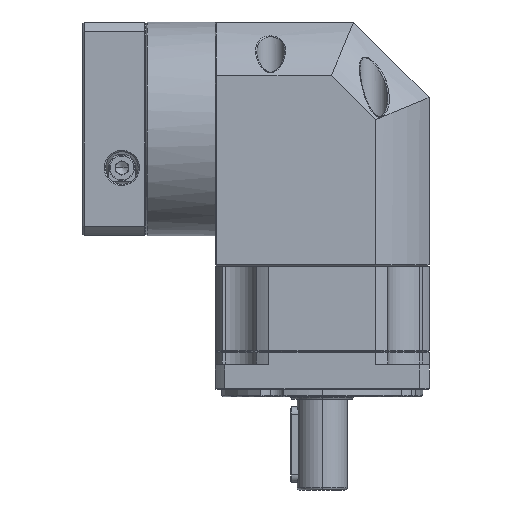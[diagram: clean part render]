
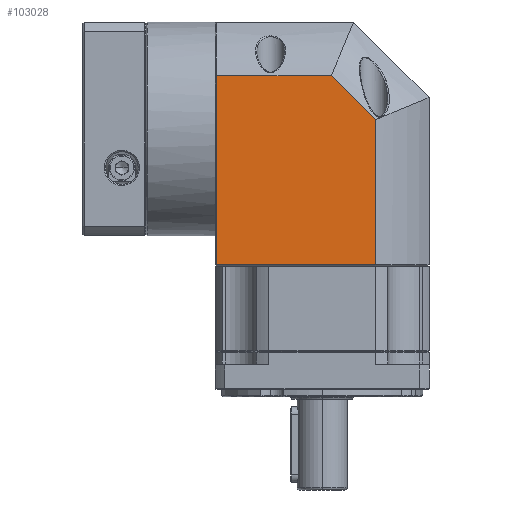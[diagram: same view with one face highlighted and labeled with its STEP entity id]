
A CAD part, left-side view. The second image highlights one B-rep face of the part: STEP entity #103028.
In plain terms, the highlighted planar face has unit normal (-1, 0, 0).
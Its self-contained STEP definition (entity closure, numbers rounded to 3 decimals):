
#5465 = ORIENTED_EDGE ( 'NONE', *, *, #45727, .T. ) ;
#8703 = EDGE_CURVE ( 'NONE', #53513, #136996, #56383, .T. ) ;
#11956 = CARTESIAN_POINT ( 'NONE',  ( -87.975, 72.746, 50.811 ) ) ;
#12419 = DIRECTION ( 'NONE',  ( 1., 0., 0. ) ) ;
#13145 = DIRECTION ( 'NONE',  ( 0., 0., 1. ) ) ;
#19177 = CARTESIAN_POINT ( 'NONE',  ( -87.975, 72.246, 29.524 ) ) ;
#26518 = VECTOR ( 'NONE', #56989, 1000. ) ;
#27243 = CARTESIAN_POINT ( 'NONE',  ( -87.975, 72.746, 29.524 ) ) ;
#31654 = EDGE_LOOP ( 'NONE', ( #5465, #123338, #32299, #112454, #137178 ) ) ;
#32299 = ORIENTED_EDGE ( 'NONE', *, *, #61989, .F. ) ;
#32563 = DIRECTION ( 'NONE',  ( 0., -1., 0. ) ) ;
#33467 = VECTOR ( 'NONE', #13145, 1000. ) ;
#34164 = CARTESIAN_POINT ( 'NONE',  ( -87.975, 72.246, -45.689 ) ) ;
#35011 = LINE ( 'NONE', #119028, #56845 ) ;
#37030 = EDGE_CURVE ( 'NONE', #79155, #112118, #134384, .T. ) ;
#40569 = VECTOR ( 'NONE', #102444, 1000. ) ;
#40720 = CARTESIAN_POINT ( 'NONE',  ( -87.975, 9.033, 54.311 ) ) ;
#43418 = PLANE ( 'NONE',  #118600 ) ;
#45249 = DIRECTION ( 'NONE',  ( 0., 1., 0. ) ) ;
#45727 = EDGE_CURVE ( 'NONE', #79155, #136996, #35011, .T. ) ;
#53513 = VERTEX_POINT ( 'NONE', #105278 ) ;
#56383 = LINE ( 'NONE', #40720, #138864 ) ;
#56845 = VECTOR ( 'NONE', #32563, 1000. ) ;
#56989 = DIRECTION ( 'NONE',  ( 0., -0.707, -0.707 ) ) ;
#61095 = EDGE_CURVE ( 'NONE', #112118, #97956, #94399, .T. ) ;
#61989 = EDGE_CURVE ( 'NONE', #97956, #53513, #122398, .T. ) ;
#78170 = CARTESIAN_POINT ( 'NONE',  ( -87.975, 26.563, 29.524 ) ) ;
#79155 = VERTEX_POINT ( 'NONE', #34164 ) ;
#80470 = FACE_OUTER_BOUND ( 'NONE', #31654, .T. ) ;
#94399 = LINE ( 'NONE', #27243, #40569 ) ;
#97956 = VERTEX_POINT ( 'NONE', #102123 ) ;
#102123 = CARTESIAN_POINT ( 'NONE',  ( -87.975, 26.563, 29.524 ) ) ;
#102444 = DIRECTION ( 'NONE',  ( 0., -1., 0. ) ) ;
#103028 = ADVANCED_FACE ( 'NONE', ( #80470 ), #43418, .F. ) ;
#105278 = CARTESIAN_POINT ( 'NONE',  ( -87.975, 9.033, 11.994 ) ) ;
#106980 = DIRECTION ( 'NONE',  ( 0., 0., -1. ) ) ;
#112118 = VERTEX_POINT ( 'NONE', #19177 ) ;
#112454 = ORIENTED_EDGE ( 'NONE', *, *, #61095, .F. ) ;
#118600 = AXIS2_PLACEMENT_3D ( 'NONE', #11956, #12419, #45249 ) ;
#118904 = CARTESIAN_POINT ( 'NONE',  ( -87.975, 72.246, 50.811 ) ) ;
#119028 = CARTESIAN_POINT ( 'NONE',  ( -87.975, 72.746, -45.689 ) ) ;
#122398 = LINE ( 'NONE', #78170, #26518 ) ;
#122816 = CARTESIAN_POINT ( 'NONE',  ( -87.975, 9.033, -45.689 ) ) ;
#123338 = ORIENTED_EDGE ( 'NONE', *, *, #8703, .F. ) ;
#134384 = LINE ( 'NONE', #118904, #33467 ) ;
#136996 = VERTEX_POINT ( 'NONE', #122816 ) ;
#137178 = ORIENTED_EDGE ( 'NONE', *, *, #37030, .F. ) ;
#138864 = VECTOR ( 'NONE', #106980, 1000. ) ;
